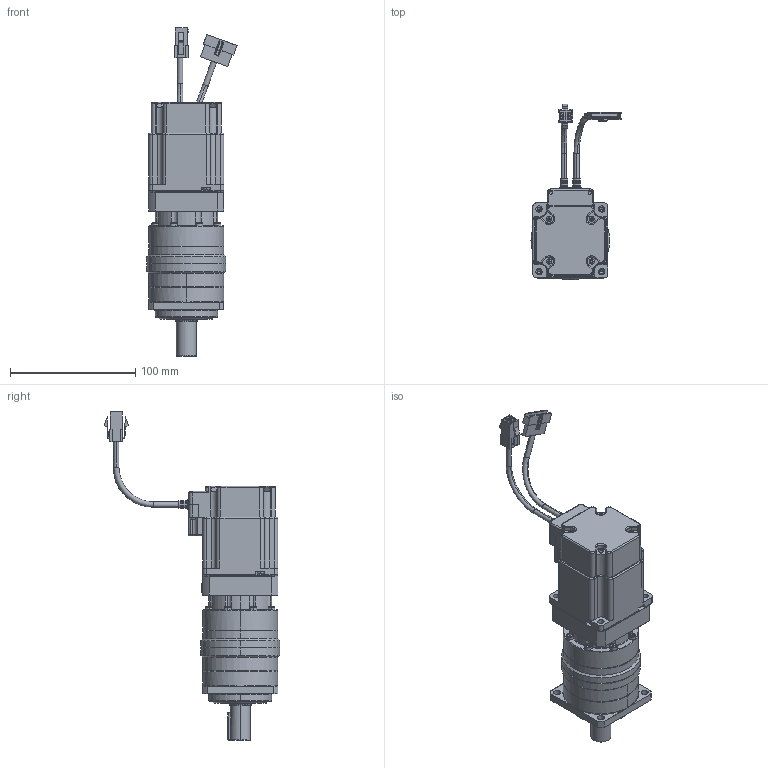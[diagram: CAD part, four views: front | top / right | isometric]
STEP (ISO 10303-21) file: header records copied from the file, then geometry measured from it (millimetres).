
FILE_DESCRIPTION (( 'STEP AP203' ), '1' );
FILE_NAME ('130416 Ezi-SERVO PG-ST-60S-PN15~50.STEP', '2013-04-16T08:32:44', ( '' ), ( '' ), 'SwSTEP 2.0', 'SolidWorks 2012', '' );
FILE_SCHEMA (( 'CONFIG_CONTROL_DESIGN' ));
Length unit declared in the file: metre
Products named in the file (15): 130416 Ezi-SERVO PG-ST-60S-PN15~50; ST56 2ST; MainEzM-60S-assembly-1; MainM3-screw10-1-2; MainM3-screw7-1-2; MainM3-screw9-1-2; MainM3-screw8-1-2; MainM3-screw12-1-2; MainM3-screw11-1-2; MainEZSV_60_Encoder_Cover-1-2; MainEZSV_60_Cable_Cover-1-2; Main60_Encoder_Plate-1-2; MainEncoder_Cable_60-1-2; MainPower_Cable_60-1-2; MainEzM-60S-1
Assembly tree (14 placements, depth 3):
  130416 Ezi-SERVO PG-ST-60S-PN15~50
    MainEzM-60S-assembly-1
      MainEzM-60S-1
      MainPower_Cable_60-1-2
      MainEncoder_Cable_60-1-2
      Main60_Encoder_Plate-1-2
      MainEZSV_60_Cable_Cover-1-2
      MainEZSV_60_Encoder_Cover-1-2
      MainM3-screw11-1-2
      MainM3-screw12-1-2
      MainM3-screw8-1-2
      MainM3-screw9-1-2
      MainM3-screw7-1-2
      MainM3-screw10-1-2
    ST56 2ST
Bounding box: 71.99 x 140.14 x 262 mm (x, y, z)
Volume: 460915.6 mm3; surface area: 92457.8 mm2
Topology: 13 solids, 13 shells, 1509 faces, 3963 edges, 2515 vertices
Faces by surface type: plane 735, cylinder 501, cone 131, torus 66, bspline 52, sphere 24
Entity records: 51419 total; most frequent: CARTESIAN_POINT 13236, ORIENTED_EDGE 7726, DIRECTION 7558, EDGE_CURVE 3863, AXIS2_PLACEMENT_3D 2770, VERTEX_POINT 2495, LINE 2018, VECTOR 2018
